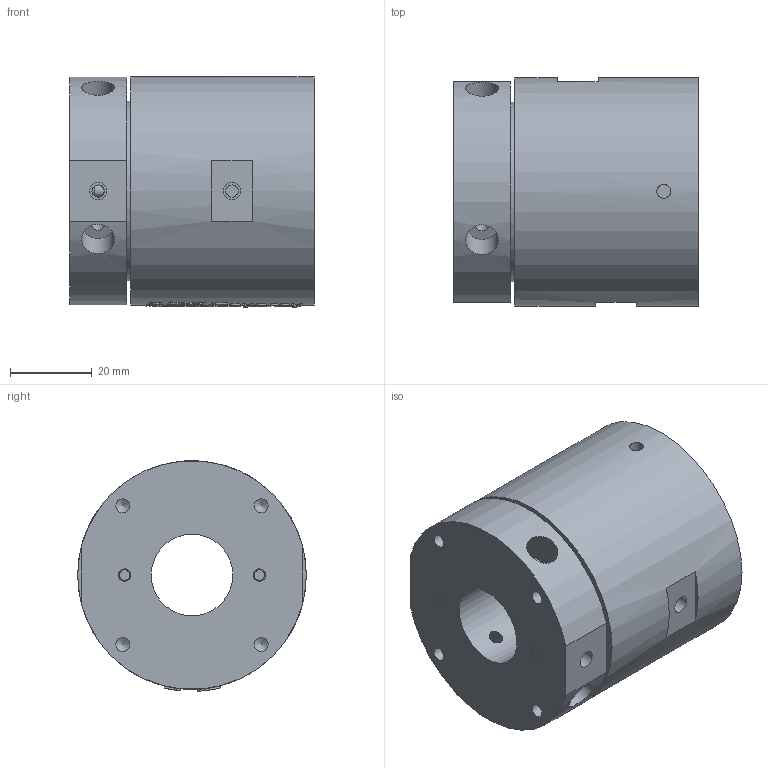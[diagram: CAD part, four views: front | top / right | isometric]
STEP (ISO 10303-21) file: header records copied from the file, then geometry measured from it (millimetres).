
FILE_DESCRIPTION(/* description */ (''),/* implementation_level */ '2;1');
FILE_NAME(/* name */ 'HQ02005-D20.stp',/* time_stamp */ '2025-01-20T15:24:31+08:00',/* author */ (''),/* organization */ (''),/* preprocessor_version */ 'ST-DEVELOPER v16.7',/* originating_system */ 'SIEMENS PLM Software NX 12.0',/* authorisation */ '');
FILE_SCHEMA (('AUTOMOTIVE_DESIGN { 1 0 10303 214 3 1 1 1 }'));
Length unit declared in the file: millimetre
Products named in the file (1): HX056BE06534dblc
Bounding box: 60 x 56 x 56.47 mm (x, y, z)
Volume: 121106.3 mm3; surface area: 25212.9 mm2
Topology: 1 solids, 1 shells, 421 faces, 1067 edges, 713 vertices
Faces by surface type: plane 223, extrusion 88, cylinder 68, bspline 29, cone 13
Full cylindrical faces by diameter (mm): 2 x2, 2.5 x6, 2.95 x2, 3 x6, 3.4 x10, 4.2 x4, 8 x4, 20 x1, 33 x1, 35 x1, 44 x1, 47 x1, 56 x1
Entity records: 31463 total; most frequent: CARTESIAN_POINT 22679, ORIENTED_EDGE 1938, DIRECTION 1310, EDGE_CURVE 969, VERTEX_POINT 696, B_SPLINE_CURVE_WITH_KNOTS 676, EDGE_LOOP 571, AXIS2_PLACEMENT_3D 536
